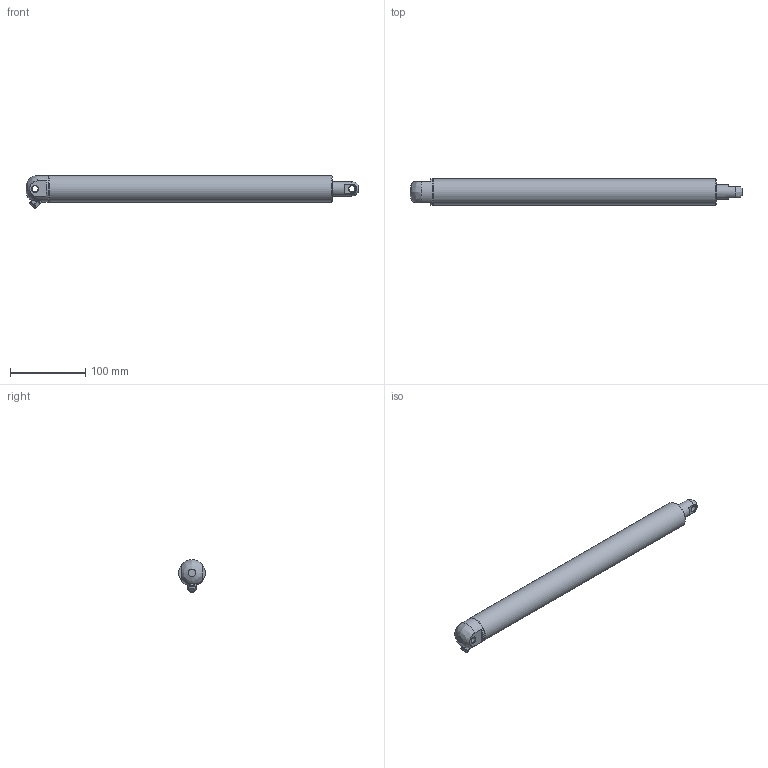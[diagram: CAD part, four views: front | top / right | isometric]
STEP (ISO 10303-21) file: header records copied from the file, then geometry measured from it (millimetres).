
FILE_DESCRIPTION( ( 'Unknown' ), '1' );
FILE_NAME( 'Z:/12¬ãµo³¡/Project/Automation/Linear Actuators/CAD/ELA35/STEP/ELA35200B.stp', 'Unknown', ( 'Unknown' ), ( 'Unknown' ), 'PSStep 10.0', 'Unknown', ' ' );
FILE_SCHEMA( ( 'AUTOMOTIVE_DESIGN { 1 0 10303 214 1 1 1 1 }' ) );
Length unit declared in the file: millimetre
Products named in the file (1): 1
Bounding box: 440 x 35 x 43.33 mm (x, y, z)
Volume: 109585 mm3; surface area: 86931 mm2
Topology: 1 solids, 2 shells, 61 faces, 149 edges, 97 vertices
Faces by surface type: plane 30, cylinder 21, cone 7, bspline 2, torus 1
Full cylindrical faces by diameter (mm): 8.1 x2, 10.8 x2, 19 x1, 31 x1, 35 x2
Entity records: 2428 total; most frequent: CARTESIAN_POINT 557, DIRECTION 296, ORIENTED_EDGE 250, EDGE_CURVE 125, AXIS2_PLACEMENT_3D 118, VERTEX_POINT 91, EDGE_LOOP 88, FACE_OUTER_BOUND 72
